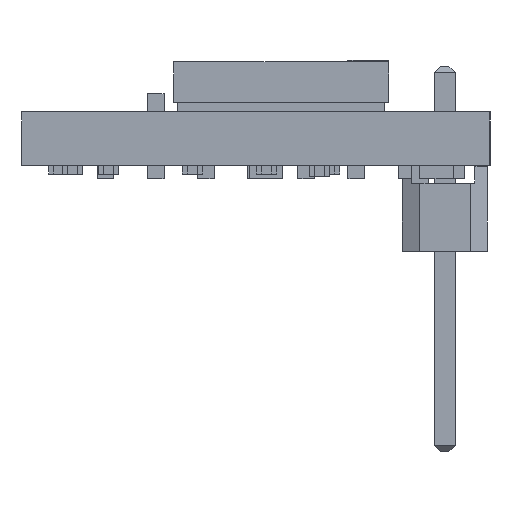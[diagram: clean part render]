
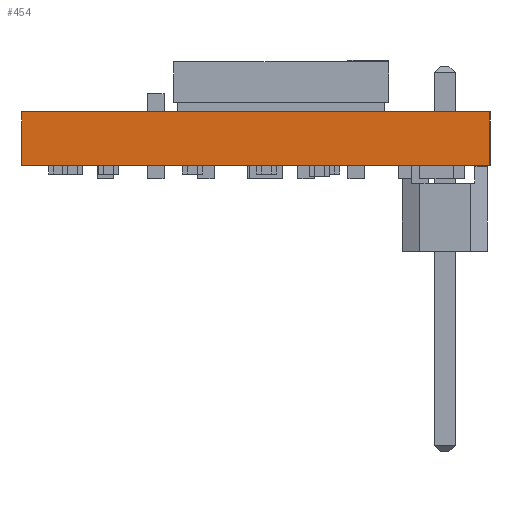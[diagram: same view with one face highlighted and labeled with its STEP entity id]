
A CAD part, left-side view. The second image highlights one B-rep face of the part: STEP entity #454.
In plain terms, the highlighted planar face has unit normal (-1, 0, 0).
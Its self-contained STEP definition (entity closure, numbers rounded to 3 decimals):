
#162 = EDGE_CURVE('',#163,#165,#167,.T.);
#163 = VERTEX_POINT('',#164);
#164 = CARTESIAN_POINT('',(0.,0.,0.));
#165 = VERTEX_POINT('',#166);
#166 = CARTESIAN_POINT('',(0.,0.,1.6));
#167 = LINE('',#168,#169);
#168 = CARTESIAN_POINT('',(0.,0.,0.));
#169 = VECTOR('',#170,1.);
#170 = DIRECTION('',(0.,0.,1.));
#429 = VERTEX_POINT('',#430);
#430 = CARTESIAN_POINT('',(0.,14.,1.6));
#436 = EDGE_CURVE('',#437,#429,#439,.T.);
#437 = VERTEX_POINT('',#438);
#438 = CARTESIAN_POINT('',(0.,14.,0.));
#439 = LINE('',#440,#441);
#440 = CARTESIAN_POINT('',(0.,14.,0.));
#441 = VECTOR('',#442,1.);
#442 = DIRECTION('',(0.,0.,1.));
#454 = ADVANCED_FACE('',(#455),#471,.F.);
#455 = FACE_BOUND('',#456,.F.);
#456 = EDGE_LOOP('',(#457,#458,#464,#465));
#457 = ORIENTED_EDGE('',*,*,#436,.T.);
#458 = ORIENTED_EDGE('',*,*,#459,.T.);
#459 = EDGE_CURVE('',#429,#165,#460,.T.);
#460 = LINE('',#461,#462);
#461 = CARTESIAN_POINT('',(0.,14.,1.6));
#462 = VECTOR('',#463,1.);
#463 = DIRECTION('',(0.,-1.,0.));
#464 = ORIENTED_EDGE('',*,*,#162,.F.);
#465 = ORIENTED_EDGE('',*,*,#466,.F.);
#466 = EDGE_CURVE('',#437,#163,#467,.T.);
#467 = LINE('',#468,#469);
#468 = CARTESIAN_POINT('',(0.,14.,0.));
#469 = VECTOR('',#470,1.);
#470 = DIRECTION('',(0.,-1.,0.));
#471 = PLANE('',#472);
#472 = AXIS2_PLACEMENT_3D('',#473,#474,#475);
#473 = CARTESIAN_POINT('',(0.,14.,0.));
#474 = DIRECTION('',(1.,0.,0.));
#475 = DIRECTION('',(0.,-1.,0.));
